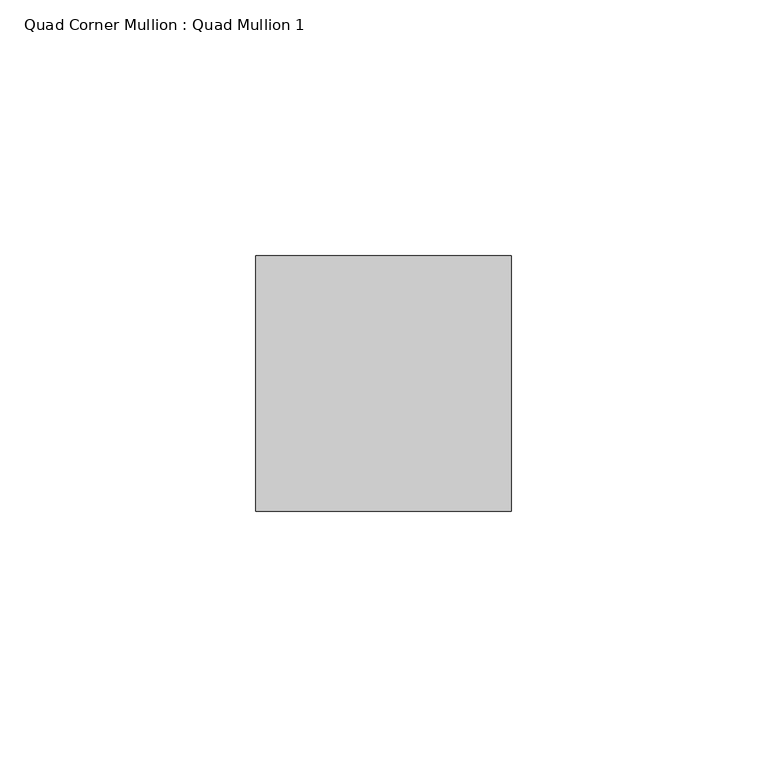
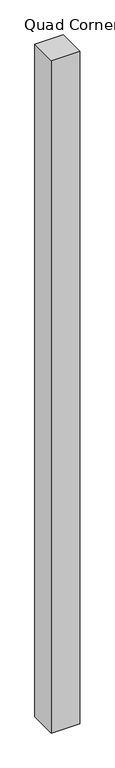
"""IFC4 building model written with IfcOpenShell, lengths in millimetres: member geometry, Quad Corner Mullion : Quad Mullion 1."""

from ifc_helpers import new_model, si_unit, frame, origin, place, context, project, spatial, polyline, outline, extrude, source, transform, mapped, element, save


def quad_corner_mullion_quad_mullion_1_e639bfe2(model_context):
    return source(origin(), model_context, "Body", "SweptSolid", [
        extrude(outline(polyline([(25.0, 25.0), (25.0, -25.0), (-25.0, -25.0), (-25.0, 25.0), (25.0, 25.0)])), frame((0.0, 0.0, -1250.0), z_axis=(0.0, 0.0, 1.0), x_axis=(1.0, 0.0, 0.0)), (0.0, 0.0, 1.0), 1250.0),
    ])


if __name__ == "__main__":
    model = new_model("IFC4")
    model_context = context("Model", 3, world=origin())
    ifc_project = project(units=[si_unit("LENGTHUNIT", "METRE", prefix="MILLI")], contexts=[model_context])
    site = spatial("IfcSite", under=ifc_project)
    building = spatial("IfcBuilding", under=site)
    placement = place(None, origin())
    quad_corner_mullion_quad_mullion_1_shape = quad_corner_mullion_quad_mullion_1_e639bfe2(model_context)
    element("IfcMember", 1, ObjectType="Quad Corner Mullion : Quad Mullion 1", at=placement, inside=building, context=model_context, shape_type="MappedRepresentation", body=[
        mapped(quad_corner_mullion_quad_mullion_1_shape, transform((0.0, 0.0, 0.0), x_axis=(1.0, 0.0, 0.0), y_axis=(0.0, 1.0, 0.0), z_axis=(0.0, 0.0, 1.0))),
    ])
    save(model, "model.ifc")
